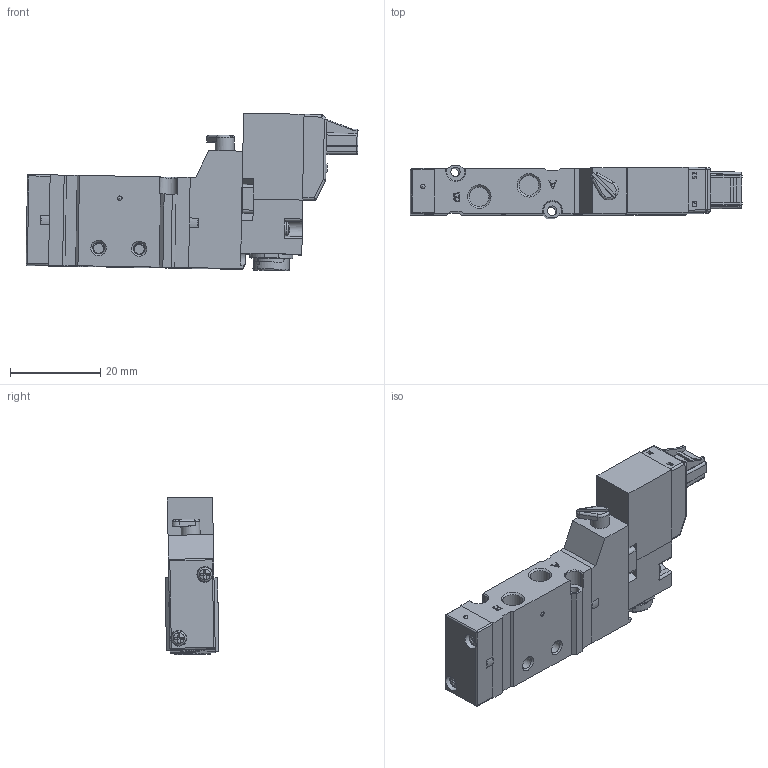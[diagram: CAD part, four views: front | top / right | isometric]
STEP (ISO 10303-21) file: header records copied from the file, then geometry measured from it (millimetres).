
FILE_DESCRIPTION((''),'2;1');
FILE_NAME('W:\技術グループ\Winovation\Winovation Projects\ADEX Valve in-line\ADEX Plus 3D CAD\P2A05RS\P2A05RS25-1P-M5_配布元データ_Shrinkwrap_1.stp','2014-09-24T16:43:24',('HM161442'),(''),'Autodesk Inventor 2013','Autodesk Inventor 2013','');
FILE_SCHEMA(('AUTOMOTIVE_DESIGN { 1 0 10303 214 1 1 1 1 }'));
Length unit declared in the file: millimetre
Products named in the file (1): P2A05RS25-1P-M5_配布元データ_Shrinkwrap_1
Bounding box: 73.48 x 11.89 x 34.89 mm (x, y, z)
Volume: 13947.1 mm3; surface area: 7888.3 mm2
Topology: 1 solids, 1 shells, 913 faces, 2363 edges, 1475 vertices
Faces by surface type: plane 542, cylinder 183, bspline 67, cone 51, sphere 35, torus 35
Full cylindrical faces by diameter (mm): 1 x6, 1.5 x2, 1.6 x2, 2.1 x2, 2.7 x3, 2.8 x1, 3.5 x6, 4.2 x1, 4.4 x6, 4.5 x1, 8 x1, 8.1 x1
Entity records: 31037 total; most frequent: CARTESIAN_POINT 8906, ORIENTED_EDGE 4432, DIRECTION 4219, EDGE_CURVE 2216, AXIS2_PLACEMENT_3D 1438, VERTEX_POINT 1420, VECTOR 1343, LINE 1343
